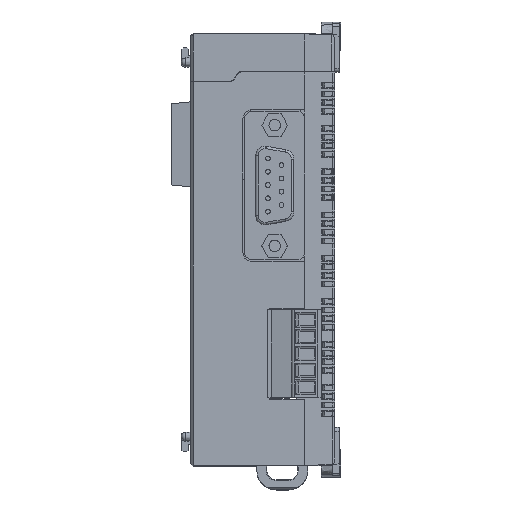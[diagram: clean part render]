
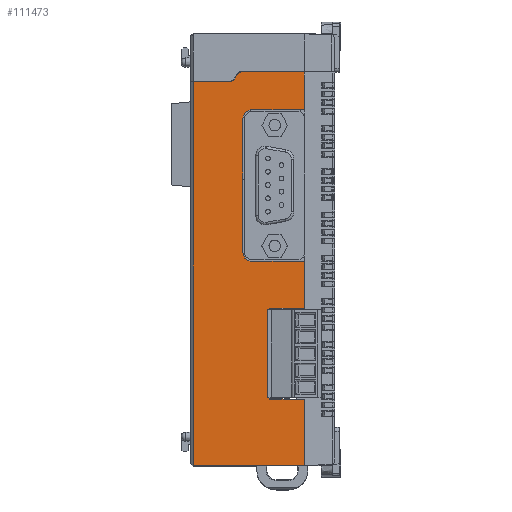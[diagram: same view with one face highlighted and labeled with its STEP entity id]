
A CAD part, top view. The second image highlights one B-rep face of the part: STEP entity #111473.
In plain terms, the highlighted planar face has unit normal (0, 0, 1).
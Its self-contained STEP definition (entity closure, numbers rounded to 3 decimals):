
#6463 = DIRECTION ( 'NONE',  ( 1., 0., 0. ) ) ;
#6683 = CARTESIAN_POINT ( 'NONE',  ( -12.101, 38.563, 63.2 ) ) ;
#6780 = EDGE_CURVE ( 'NONE', #81665, #61782, #160284, .T. ) ;
#6965 = CARTESIAN_POINT ( 'NONE',  ( -22.678, -42.437, 63.2 ) ) ;
#7884 = LINE ( 'NONE', #6965, #152700 ) ;
#8216 = VECTOR ( 'NONE', #152675, 1000. ) ;
#8565 = VERTEX_POINT ( 'NONE', #103778 ) ;
#9117 = DIRECTION ( 'NONE',  ( 0., 0., -1. ) ) ;
#11187 = EDGE_CURVE ( 'NONE', #176254, #144837, #134451, .T. ) ;
#11245 = CARTESIAN_POINT ( 'NONE',  ( -22.678, 47.563, 63.2 ) ) ;
#13167 = EDGE_CURVE ( 'NONE', #140776, #131206, #116128, .T. ) ;
#14726 = VECTOR ( 'NONE', #72848, 1000. ) ;
#18676 = CARTESIAN_POINT ( 'NONE',  ( -6.178, -28.587, 63.2 ) ) ;
#19777 = ORIENTED_EDGE ( 'NONE', *, *, #13167, .F. ) ;
#23822 = VECTOR ( 'NONE', #6463, 1000. ) ;
#27680 = CARTESIAN_POINT ( 'NONE',  ( 1.022, 47.563, 63.2 ) ) ;
#29541 = AXIS2_PLACEMENT_3D ( 'NONE', #11245, #52316, #149552 ) ;
#29646 = EDGE_CURVE ( 'NONE', #75626, #8565, #96956, .T. ) ;
#30186 = CARTESIAN_POINT ( 'NONE',  ( -13.544, 38.063, 63.2 ) ) ;
#32317 = CARTESIAN_POINT ( 'NONE',  ( 1.022, 39.563, 63.2 ) ) ;
#34106 = LINE ( 'NONE', #90982, #8216 ) ;
#34407 = DIRECTION ( 'NONE',  ( 0., -1., 0. ) ) ;
#34680 = DIRECTION ( 'NONE',  ( 0., 0., 1. ) ) ;
#37048 = VECTOR ( 'NONE', #133685, 1000. ) ;
#37370 = CARTESIAN_POINT ( 'NONE',  ( -9.936, 0.117, 63.2 ) ) ;
#42279 = EDGE_CURVE ( 'NONE', #105530, #129298, #103745, .T. ) ;
#42720 = CARTESIAN_POINT ( 'NONE',  ( -13.833, 37.563, 63.2 ) ) ;
#42943 = VECTOR ( 'NONE', #99710, 1000. ) ;
#43590 = CIRCLE ( 'NONE', #130175, 1. ) ;
#44241 = CARTESIAN_POINT ( 'NONE',  ( -9.936, 0.117, 63.2 ) ) ;
#45309 = CARTESIAN_POINT ( 'NONE',  ( -6.178, -28.587, 63.2 ) ) ;
#45946 = FACE_OUTER_BOUND ( 'NONE', #82871, .T. ) ;
#46808 = CARTESIAN_POINT ( 'NONE',  ( -12.967, 39.063, 63.2 ) ) ;
#50043 = DIRECTION ( 'NONE',  ( 0., 0., 1. ) ) ;
#50609 = CIRCLE ( 'NONE', #77401, 1.85 ) ;
#52316 = DIRECTION ( 'NONE',  ( 0., 0., 1. ) ) ;
#53665 = ORIENTED_EDGE ( 'NONE', *, *, #94038, .T. ) ;
#55587 = LINE ( 'NONE', #27680, #97610 ) ;
#58437 = CARTESIAN_POINT ( 'NONE',  ( 1.022, -28.587, 63.2 ) ) ;
#58553 = LINE ( 'NONE', #42720, #42943 ) ;
#59844 = LINE ( 'NONE', #131857, #37048 ) ;
#60955 = DIRECTION ( 'NONE',  ( 0., -1., 0. ) ) ;
#61782 = VERTEX_POINT ( 'NONE', #85567 ) ;
#61886 = VERTEX_POINT ( 'NONE', #176102 ) ;
#62551 = DIRECTION ( 'NONE',  ( 0., -1., 0. ) ) ;
#66689 = LINE ( 'NONE', #180713, #127869 ) ;
#66836 = CARTESIAN_POINT ( 'NONE',  ( -11.786, 29.813, 63.2 ) ) ;
#68287 = ORIENTED_EDGE ( 'NONE', *, *, #147575, .F. ) ;
#69726 = CARTESIAN_POINT ( 'NONE',  ( -9.936, 31.663, 63.2 ) ) ;
#70730 = VECTOR ( 'NONE', #62551, 1000. ) ;
#72848 = DIRECTION ( 'NONE',  ( 0., -1., 0. ) ) ;
#75626 = VERTEX_POINT ( 'NONE', #30186 ) ;
#75885 = LINE ( 'NONE', #147841, #150094 ) ;
#76092 = VERTEX_POINT ( 'NONE', #66836 ) ;
#76183 = EDGE_CURVE ( 'NONE', #144837, #83648, #55587, .T. ) ;
#77401 = AXIS2_PLACEMENT_3D ( 'NONE', #134192, #50043, #108894 ) ;
#77637 = ORIENTED_EDGE ( 'NONE', *, *, #161665, .F. ) ;
#80160 = ORIENTED_EDGE ( 'NONE', *, *, #180417, .F. ) ;
#81400 = EDGE_CURVE ( 'NONE', #75626, #146333, #151681, .T. ) ;
#81665 = VERTEX_POINT ( 'NONE', #136516 ) ;
#81872 = ORIENTED_EDGE ( 'NONE', *, *, #172279, .T. ) ;
#82871 = EDGE_LOOP ( 'NONE', ( #77637, #68287, #19777, #114054, #85839, #84630, #138943, #80160, #138403, #81872, #90657, #123914, #131866, #151667, #53665, #121049, #125287, #180879 ) ) ;
#83648 = VERTEX_POINT ( 'NONE', #99972 ) ;
#84630 = ORIENTED_EDGE ( 'NONE', *, *, #157958, .F. ) ;
#85567 = CARTESIAN_POINT ( 'NONE',  ( 1.022, 39.563, 63.2 ) ) ;
#85839 = ORIENTED_EDGE ( 'NONE', *, *, #160838, .F. ) ;
#88554 = CARTESIAN_POINT ( 'NONE',  ( -9.936, 29.813, 63.2 ) ) ;
#89189 = DIRECTION ( 'NONE',  ( 1., 0., 0. ) ) ;
#90595 = LINE ( 'NONE', #118619, #70730 ) ;
#90657 = ORIENTED_EDGE ( 'NONE', *, *, #81400, .F. ) ;
#90966 = DIRECTION ( 'NONE',  ( 1., 0., 0. ) ) ;
#90982 = CARTESIAN_POINT ( 'NONE',  ( -6.178, -9.687, 63.2 ) ) ;
#94038 = EDGE_CURVE ( 'NONE', #99996, #83648, #7884, .T. ) ;
#95168 = CIRCLE ( 'NONE', #181817, 1.85 ) ;
#96956 = CIRCLE ( 'NONE', #135725, 1. ) ;
#97020 = VECTOR ( 'NONE', #97346, 1000. ) ;
#97346 = DIRECTION ( 'NONE',  ( 0.5, 0.866, 0. ) ) ;
#97610 = VECTOR ( 'NONE', #144358, 1000. ) ;
#99710 = DIRECTION ( 'NONE',  ( 1., 0., 0. ) ) ;
#99972 = CARTESIAN_POINT ( 'NONE',  ( 1.022, -42.437, 63.2 ) ) ;
#99996 = VERTEX_POINT ( 'NONE', #153902 ) ;
#101670 = DIRECTION ( 'NONE',  ( 1., 0., 0. ) ) ;
#103745 = LINE ( 'NONE', #145842, #166532 ) ;
#103778 = CARTESIAN_POINT ( 'NONE',  ( -14.41, 37.563, 63.2 ) ) ;
#105530 = VERTEX_POINT ( 'NONE', #116551 ) ;
#108572 = EDGE_CURVE ( 'NONE', #121734, #8565, #58553, .T. ) ;
#108894 = DIRECTION ( 'NONE',  ( 1., 0., 0. ) ) ;
#111473 = ADVANCED_FACE ( 'NONE', ( #45946 ), #176654, .T. ) ;
#112720 = VERTEX_POINT ( 'NONE', #146567 ) ;
#114054 = ORIENTED_EDGE ( 'NONE', *, *, #175228, .F. ) ;
#114547 = EDGE_CURVE ( 'NONE', #121734, #99996, #142054, .T. ) ;
#116128 = LINE ( 'NONE', #44241, #152763 ) ;
#116551 = CARTESIAN_POINT ( 'NONE',  ( 1.022, 31.663, 63.2 ) ) ;
#118619 = CARTESIAN_POINT ( 'NONE',  ( 1.022, 47.563, 63.2 ) ) ;
#119582 = VERTEX_POINT ( 'NONE', #171000 ) ;
#121049 = ORIENTED_EDGE ( 'NONE', *, *, #76183, .F. ) ;
#121734 = VERTEX_POINT ( 'NONE', #153834 ) ;
#123914 = ORIENTED_EDGE ( 'NONE', *, *, #29646, .T. ) ;
#125287 = ORIENTED_EDGE ( 'NONE', *, *, #11187, .F. ) ;
#127869 = VECTOR ( 'NONE', #152711, 1000. ) ;
#128021 = VECTOR ( 'NONE', #89189, 1000. ) ;
#129298 = VERTEX_POINT ( 'NONE', #69726 ) ;
#130175 = AXIS2_PLACEMENT_3D ( 'NONE', #6683, #34680, #148676 ) ;
#131206 = VERTEX_POINT ( 'NONE', #184711 ) ;
#131857 = CARTESIAN_POINT ( 'NONE',  ( 1.022, -9.687, 63.2 ) ) ;
#131866 = ORIENTED_EDGE ( 'NONE', *, *, #108572, .F. ) ;
#132916 = EDGE_CURVE ( 'NONE', #112720, #176254, #34106, .T. ) ;
#133685 = DIRECTION ( 'NONE',  ( -1., 0., 0. ) ) ;
#134192 = CARTESIAN_POINT ( 'NONE',  ( -9.936, 1.967, 63.2 ) ) ;
#134451 = LINE ( 'NONE', #18676, #23822 ) ;
#135725 = AXIS2_PLACEMENT_3D ( 'NONE', #162403, #9117, #34407 ) ;
#136516 = CARTESIAN_POINT ( 'NONE',  ( -12.101, 39.563, 63.2 ) ) ;
#138403 = ORIENTED_EDGE ( 'NONE', *, *, #6780, .F. ) ;
#138943 = ORIENTED_EDGE ( 'NONE', *, *, #42279, .F. ) ;
#139491 = CARTESIAN_POINT ( 'NONE',  ( -12.678, 39.563, 63.2 ) ) ;
#140776 = VERTEX_POINT ( 'NONE', #37370 ) ;
#142054 = LINE ( 'NONE', #142977, #14726 ) ;
#142977 = CARTESIAN_POINT ( 'NONE',  ( -22.178, -42.437, 63.2 ) ) ;
#144358 = DIRECTION ( 'NONE',  ( 0., -1., 0. ) ) ;
#144837 = VERTEX_POINT ( 'NONE', #58437 ) ;
#145582 = DIRECTION ( 'NONE',  ( 0., 0., 1. ) ) ;
#145842 = CARTESIAN_POINT ( 'NONE',  ( 1.022, 31.663, 63.2 ) ) ;
#146333 = VERTEX_POINT ( 'NONE', #46808 ) ;
#146567 = CARTESIAN_POINT ( 'NONE',  ( -6.178, -9.687, 63.2 ) ) ;
#147575 = EDGE_CURVE ( 'NONE', #131206, #119582, #90595, .T. ) ;
#147841 = CARTESIAN_POINT ( 'NONE',  ( -11.786, 29.813, 63.2 ) ) ;
#148676 = DIRECTION ( 'NONE',  ( 0., -1., 0. ) ) ;
#149552 = DIRECTION ( 'NONE',  ( 0., -1., 0. ) ) ;
#150094 = VECTOR ( 'NONE', #60955, 1000. ) ;
#151667 = ORIENTED_EDGE ( 'NONE', *, *, #114547, .T. ) ;
#151681 = LINE ( 'NONE', #139491, #97020 ) ;
#152675 = DIRECTION ( 'NONE',  ( 0., -1., 0. ) ) ;
#152700 = VECTOR ( 'NONE', #90966, 1000. ) ;
#152711 = DIRECTION ( 'NONE',  ( 0., -1., 0. ) ) ;
#152763 = VECTOR ( 'NONE', #174119, 1000. ) ;
#153834 = CARTESIAN_POINT ( 'NONE',  ( -22.178, 37.563, 63.2 ) ) ;
#153902 = CARTESIAN_POINT ( 'NONE',  ( -22.178, -42.437, 63.2 ) ) ;
#157958 = EDGE_CURVE ( 'NONE', #129298, #76092, #95168, .T. ) ;
#160284 = LINE ( 'NONE', #32317, #128021 ) ;
#160798 = DIRECTION ( 'NONE',  ( -1., 0., 0. ) ) ;
#160838 = EDGE_CURVE ( 'NONE', #76092, #61886, #75885, .T. ) ;
#161665 = EDGE_CURVE ( 'NONE', #119582, #112720, #59844, .T. ) ;
#162403 = CARTESIAN_POINT ( 'NONE',  ( -14.41, 38.563, 63.2 ) ) ;
#166532 = VECTOR ( 'NONE', #160798, 1000. ) ;
#171000 = CARTESIAN_POINT ( 'NONE',  ( 1.022, -9.687, 63.2 ) ) ;
#172279 = EDGE_CURVE ( 'NONE', #81665, #146333, #43590, .T. ) ;
#174119 = DIRECTION ( 'NONE',  ( 1., 0., 0. ) ) ;
#175228 = EDGE_CURVE ( 'NONE', #61886, #140776, #50609, .T. ) ;
#176102 = CARTESIAN_POINT ( 'NONE',  ( -11.786, 1.967, 63.2 ) ) ;
#176254 = VERTEX_POINT ( 'NONE', #45309 ) ;
#176654 = PLANE ( 'NONE',  #29541 ) ;
#180417 = EDGE_CURVE ( 'NONE', #61782, #105530, #66689, .T. ) ;
#180713 = CARTESIAN_POINT ( 'NONE',  ( 1.022, 47.563, 63.2 ) ) ;
#180879 = ORIENTED_EDGE ( 'NONE', *, *, #132916, .F. ) ;
#181817 = AXIS2_PLACEMENT_3D ( 'NONE', #88554, #145582, #101670 ) ;
#184711 = CARTESIAN_POINT ( 'NONE',  ( 1.022, 0.117, 63.2 ) ) ;
